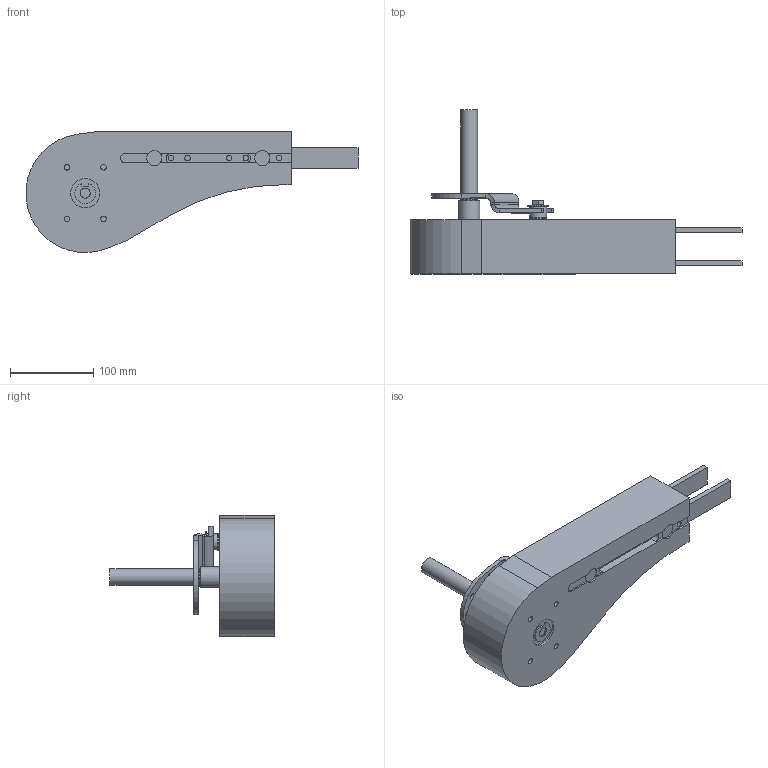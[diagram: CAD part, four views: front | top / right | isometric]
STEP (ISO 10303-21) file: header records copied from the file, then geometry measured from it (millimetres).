
FILE_DESCRIPTION(/* description */ ('Endantriebseinheit FL, heavy, ohne Rutschkupplung, rechts, geschlossen, direkt'),/* implementation_level */ '2;1');
FILE_NAME(/* name */ 'T:\vdz0\Step Daten Website\modulflex FL-System\Antriebseinheiten rechts - links\FLEB_HNRGP_MB-73470.stp',/* time_stamp */ '2024-08-21T10:35:17+02:00',/* author */ ('vdz0'),/* organization */ ('modular automation GmbH'),/* preprocessor_version */ 'ST-DEVELOPER v18.1',/* originating_system */ 'Autodesk Inventor 2021',/* authorisation */ '');
FILE_SCHEMA (('CONFIG_CONTROL_DESIGN'));
Length unit declared in the file: millimetre
Products named in the file (1): FLEB_HNRGP_MB
Bounding box: 399.29 x 197.3 x 145.63 mm (x, y, z)
Volume: 2161050.1 mm3; surface area: 167027.4 mm2
Topology: 1 solids, 1 shells, 205 faces, 492 edges, 321 vertices
Faces by surface type: plane 124, cylinder 70, cone 6, bspline 4, torus 1
Full cylindrical faces by diameter (mm): 6.6 x8, 6.647 x10, 8 x1, 8.1 x1, 11.63 x1, 12 x2, 12.1 x1, 16 x1, 18.3 x4, 20 x3, 25 x1, 35 x2, 50 x1
Entity records: 6702 total; most frequent: CARTESIAN_POINT 1483, DIRECTION 1040, ORIENTED_EDGE 984, EDGE_CURVE 492, AXIS2_PLACEMENT_3D 366, VERTEX_POINT 321, LINE 308, VECTOR 308
